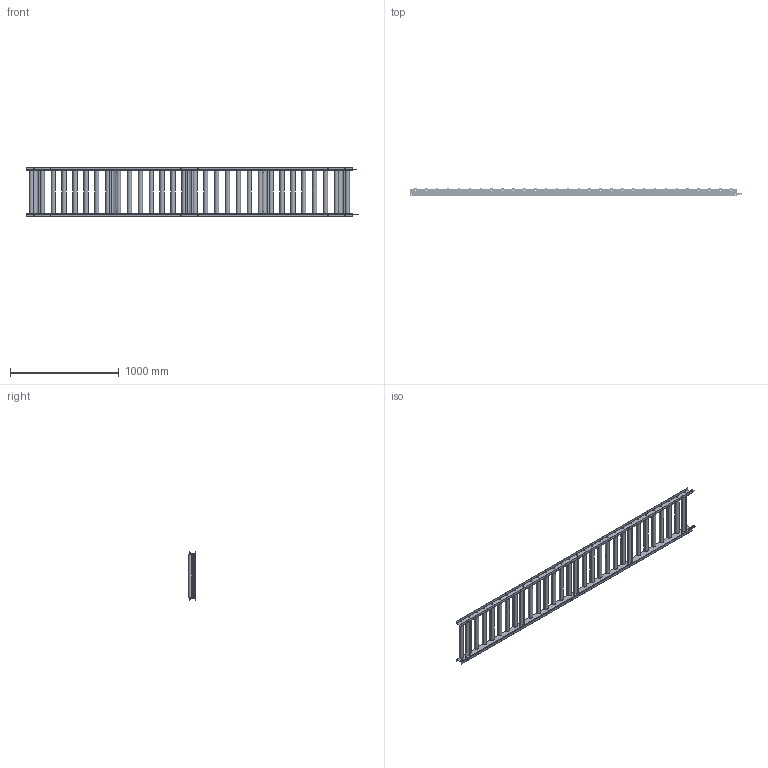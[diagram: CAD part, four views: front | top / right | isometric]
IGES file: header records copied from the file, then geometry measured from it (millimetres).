
Start section: SolidWorks IGES file using analytic representation for surfaces
Global section: file name: C:\Users\0656\Desktop\変換ツール\iges変換\SJR-4023S.igs; native system: SolidWorks 2023; preprocessor: SolidWorks 2023; author: 0656; date: 240226.153124; units: millimetre
Bounding box: 3048 x 71.05 x 450 mm (x, y, z)
Surface area: 4151442.1 mm2 (no closed solid volume)
Topology: 0 solids, 0 shells, 2095 faces, 34090 edges, 34090 vertices
Faces by surface type: bspline 1230, revolution 865
